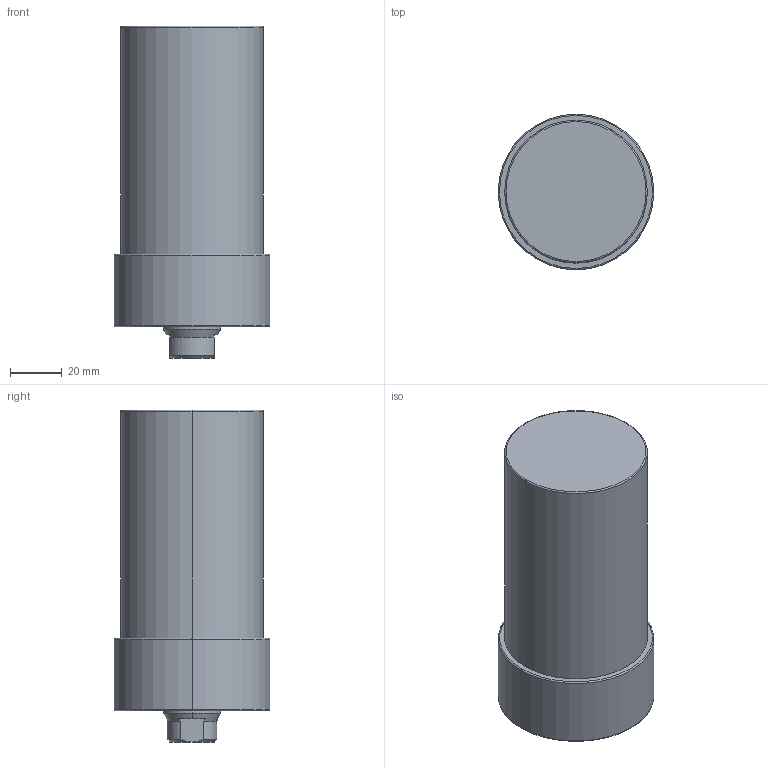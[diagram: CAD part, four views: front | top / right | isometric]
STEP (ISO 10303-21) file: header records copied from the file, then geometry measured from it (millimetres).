
FILE_DESCRIPTION (( 'STEP AP203' ), '1' );
FILE_NAME ('CLLU055-CA-075.STEP', '2017-05-12T11:13:21', ( '' ), ( '' ), 'SwSTEP 2.0', 'SolidWorks 2015', '' );
FILE_SCHEMA (( 'CONFIG_CONTROL_DESIGN' ));
Length unit declared in the file: millimetre
Products named in the file (1): CLLU055-CA-075
Bounding box: 60 x 60 x 128 mm (x, y, z)
Volume: 288574 mm3; surface area: 28527.9 mm2
Topology: 1 solids, 1 shells, 62 faces, 138 edges, 77 vertices
Faces by surface type: cone 24, cylinder 22, plane 10, torus 6
Entity records: 1745 total; most frequent: DIRECTION 318, CARTESIAN_POINT 308, ORIENTED_EDGE 256, AXIS2_PLACEMENT_3D 135, EDGE_CURVE 128, VERTEX_POINT 77, CIRCLE 72, EDGE_LOOP 71
